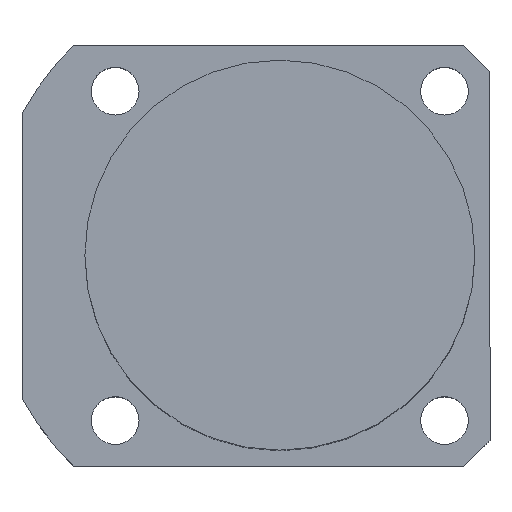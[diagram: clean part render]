
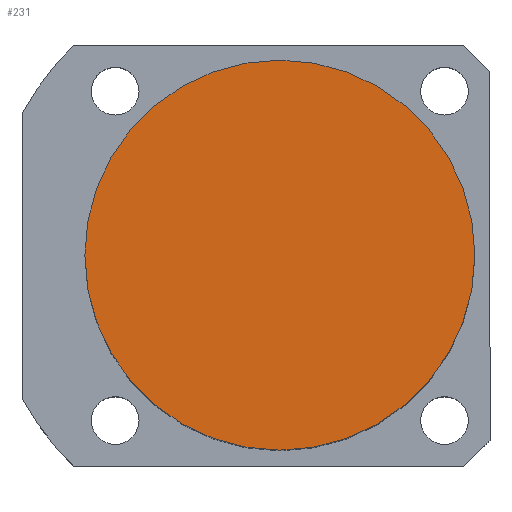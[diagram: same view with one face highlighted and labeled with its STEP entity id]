
A CAD part, top view. The second image highlights one B-rep face of the part: STEP entity #231.
In plain terms, the highlighted planar face has unit normal (0, 0, 1).
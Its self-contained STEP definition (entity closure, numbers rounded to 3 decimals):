
#12 = DIRECTION ( 'NONE',  ( 0., 0., 1. ) ) ;
#39 = DIRECTION ( 'NONE',  ( 0., 0., 1. ) ) ;
#78 = CARTESIAN_POINT ( 'NONE',  ( -45., 0., 109.5 ) ) ;
#188 = VERTEX_POINT ( 'NONE', #1311 ) ;
#231 = ADVANCED_FACE ( 'NONE', ( #1072 ), #1793, .T. ) ;
#417 = VERTEX_POINT ( 'NONE', #78 ) ;
#521 = ORIENTED_EDGE ( 'NONE', *, *, #1166, .T. ) ;
#688 = DIRECTION ( 'NONE',  ( 0., 0., 1. ) ) ;
#748 = AXIS2_PLACEMENT_3D ( 'NONE', #876, #12, #889 ) ;
#756 = DIRECTION ( 'NONE',  ( 1., 0., 0. ) ) ;
#777 = AXIS2_PLACEMENT_3D ( 'NONE', #1758, #688, #977 ) ;
#815 = CIRCLE ( 'NONE', #748, 45. ) ;
#876 = CARTESIAN_POINT ( 'NONE',  ( 0., 0., 109.5 ) ) ;
#889 = DIRECTION ( 'NONE',  ( 1., 0., 0. ) ) ;
#977 = DIRECTION ( 'NONE',  ( 1., 0., 0. ) ) ;
#1025 = CARTESIAN_POINT ( 'NONE',  ( 0., 0., 109.5 ) ) ;
#1065 = AXIS2_PLACEMENT_3D ( 'NONE', #1025, #39, #756 ) ;
#1072 = FACE_OUTER_BOUND ( 'NONE', #1208, .T. ) ;
#1166 = EDGE_CURVE ( 'NONE', #188, #417, #815, .T. ) ;
#1199 = ORIENTED_EDGE ( 'NONE', *, *, #1444, .T. ) ;
#1208 = EDGE_LOOP ( 'NONE', ( #1199, #521 ) ) ;
#1311 = CARTESIAN_POINT ( 'NONE',  ( 45., 0., 109.5 ) ) ;
#1444 = EDGE_CURVE ( 'NONE', #417, #188, #1490, .T. ) ;
#1490 = CIRCLE ( 'NONE', #777, 45. ) ;
#1758 = CARTESIAN_POINT ( 'NONE',  ( 0., 0., 109.5 ) ) ;
#1793 = PLANE ( 'NONE',  #1065 ) ;
